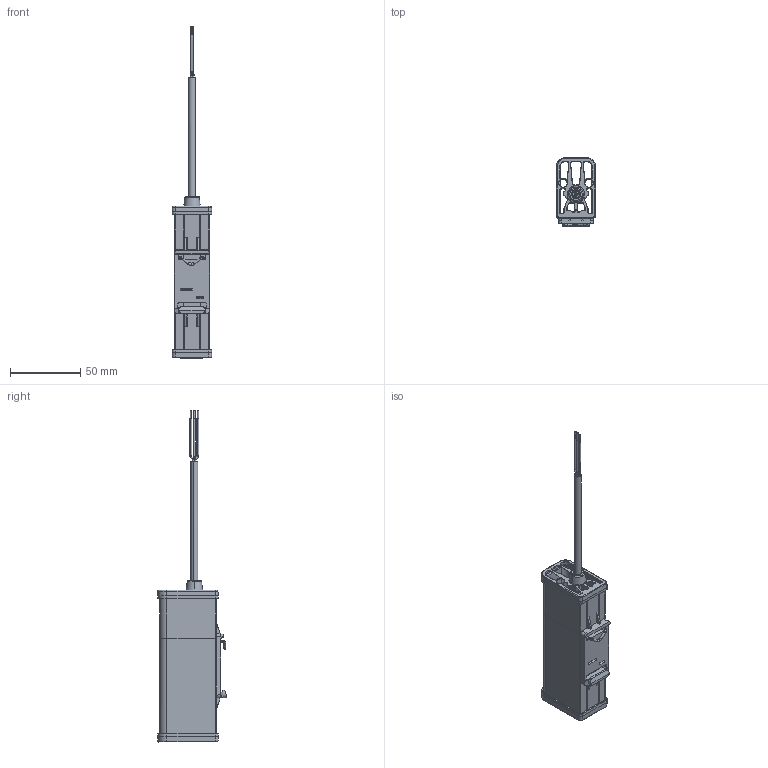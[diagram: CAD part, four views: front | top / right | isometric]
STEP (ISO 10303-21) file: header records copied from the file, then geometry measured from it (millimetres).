
FILE_DESCRIPTION(/* description */ (''),/* implementation_level */ '2;1');
FILE_NAME(/* name */ 'HWM025-030',/* time_stamp */ '2025-11-10T12:56:07+01:00',/* author */ (''),/* organization */ (''),/* preprocessor_version */ 'ST-DEVELOPER v16.5',/* originating_system */ 'Rhino 7.38',/* authorisation */ '');
FILE_SCHEMA (('AUTOMOTIVE_DESIGN'));
Length unit declared in the file: millimetre
Products named in the file (3): Document; Molla CLIP Piccola6; Clip plastica_Dissipatore medio
Assembly tree (2 placements, depth 2):
  Document
    Molla CLIP Piccola6
    Clip plastica_Dissipatore medio
Bounding box: 28 x 48.75 x 236.4 mm (x, y, z)
Volume: 15840.3 mm3; surface area: 34736.9 mm2
Topology: 3 solids, 6 shells, 789 faces, 2177 edges, 1389 vertices
Faces by surface type: cylinder 310, bspline 287, plane 192
Entity records: 40861 total; most frequent: CARTESIAN_POINT 28175, ORIENTED_EDGE 4113, EDGE_CURVE 2163, VERTEX_POINT 1389, B_SPLINE_CURVE_WITH_KNOTS 944, EDGE_LOOP 834, ADVANCED_FACE 789, FACE_OUTER_BOUND 789
